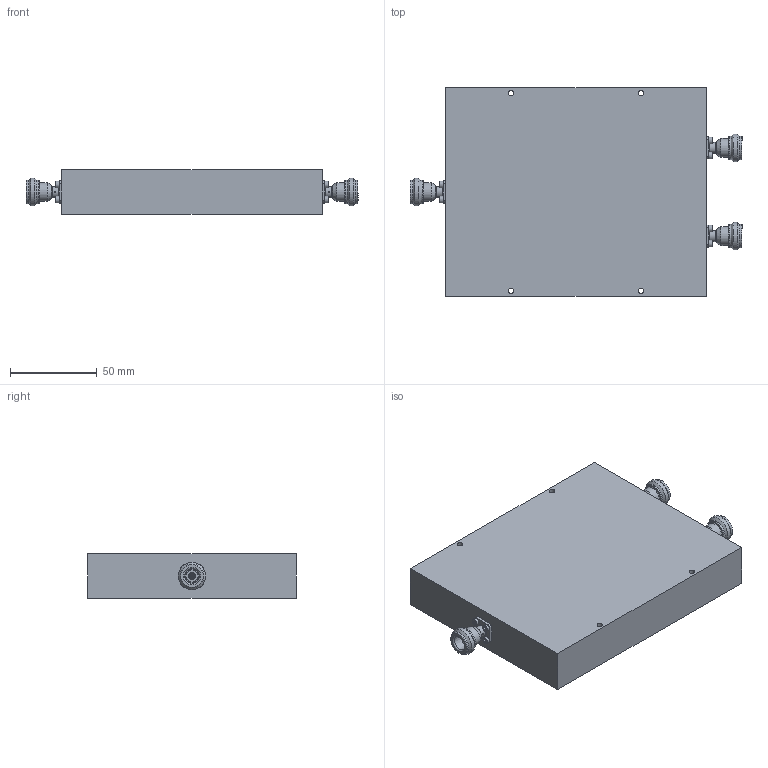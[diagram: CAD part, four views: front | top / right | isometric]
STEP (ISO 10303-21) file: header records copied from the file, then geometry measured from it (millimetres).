
FILE_DESCRIPTION(/* description */ ('Unknown'),/* implementation_level */ '2;1');
FILE_NAME(/* name */ 'DETI_MICROWAVE_MULTI_OCTAVE_BROADBAND_COMBINER _011140_STEP',/* time_stamp */ '2021-06-14T16:08:37+02:00',/* author */ ('ALG'),/* organization */ ('DETI'),/* preprocessor_version */ 'ST-DEVELOPER v16.7',/* originating_system */ 'Solid Edge',/* authorisation */ 'Unknown');
FILE_SCHEMA (('AUTOMOTIVE_DESIGN {1 0 10303 214 3 1 1}'));
Length unit declared in the file: millimetre
Products named in the file (1): CO-2-100-500-200-NF-NF2
Bounding box: 191.4 x 120 x 25.4 mm (x, y, z)
Volume: 461317.1 mm3; surface area: 55950.1 mm2
Topology: 1 solids, 16 shells, 430 faces, 1005 edges, 646 vertices
Faces by surface type: plane 213, cylinder 97, cone 96, torus 24
Full cylindrical faces by diameter (mm): 1 x6, 1.275 x3, 2 x12, 2.1 x3, 2.9 x12, 3.03 x3, 3.2 x4, 3.8 x12, 4.06 x3, 4.1 x3, 6.3 x3, 7 x3, 10.9 x3, 13.5 x6, 15.84 x3
Entity records: 14330 total; most frequent: CARTESIAN_POINT 2462, DIRECTION 1802, ORIENTED_EDGE 1600, EDGE_CURVE 800, AXIS2_PLACEMENT_3D 769, FACE_BOUND 655, EDGE_LOOP 640, VERTEX_POINT 595
